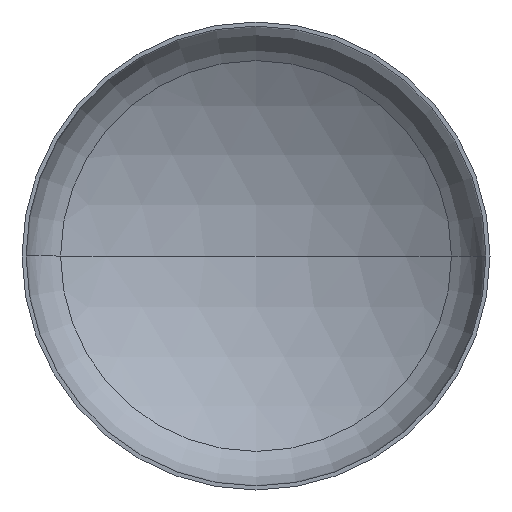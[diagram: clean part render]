
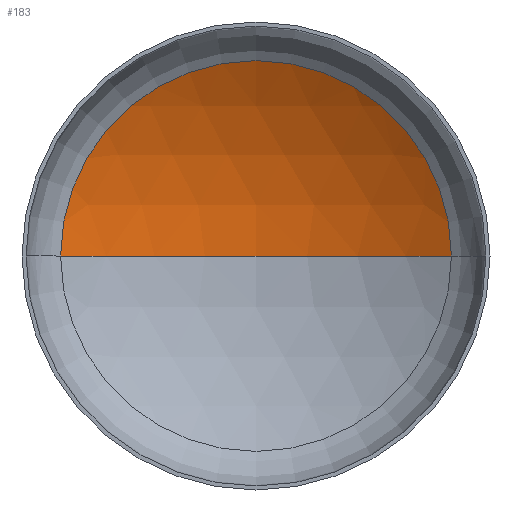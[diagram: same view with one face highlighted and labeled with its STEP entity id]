
A CAD part, front view. The second image highlights one B-rep face of the part: STEP entity #183.
In plain terms, the highlighted spherical face has radius 1760 mm.
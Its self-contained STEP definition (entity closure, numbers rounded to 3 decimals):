
#1 = DIRECTION ( 'NONE',  ( -1., 0., 0. ) ) ;
#5 = DIRECTION ( 'NONE',  ( 0., 0., -1. ) ) ;
#19 = DIRECTION ( 'NONE',  ( 1., 0., 0. ) ) ;
#20 = CARTESIAN_POINT ( 'NONE',  ( 0., -1151.329, 0. ) ) ;
#25 = VERTEX_POINT ( 'NONE', #258 ) ;
#28 = AXIS2_PLACEMENT_3D ( 'NONE', #197, #281, #367 ) ;
#29 = DIRECTION ( 'NONE',  ( 1., 0., 0. ) ) ;
#37 = AXIS2_PLACEMENT_3D ( 'NONE', #20, #250, #29 ) ;
#40 = DIRECTION ( 'NONE',  ( 0., -1., 0. ) ) ;
#42 = AXIS2_PLACEMENT_3D ( 'NONE', #90, #5, #1 ) ;
#43 = AXIS2_PLACEMENT_3D ( 'NONE', #78, #40, #19 ) ;
#49 = ORIENTED_EDGE ( 'NONE', *, *, #103, .T. ) ;
#51 = VERTEX_POINT ( 'NONE', #206 ) ;
#78 = CARTESIAN_POINT ( 'NONE',  ( 0., 350.037, 0. ) ) ;
#80 = ORIENTED_EDGE ( 'NONE', *, *, #105, .F. ) ;
#90 = CARTESIAN_POINT ( 'NONE',  ( 0., -1151.329, 0. ) ) ;
#93 = VERTEX_POINT ( 'NONE', #158 ) ;
#97 = EDGE_CURVE ( 'NONE', #51, #93, #202, .T. ) ;
#103 = EDGE_CURVE ( 'NONE', #25, #51, #326, .T. ) ;
#105 = EDGE_CURVE ( 'NONE', #25, #93, #187, .T. ) ;
#158 = CARTESIAN_POINT ( 'NONE',  ( -918.423, 350.037, 0. ) ) ;
#159 = EDGE_LOOP ( 'NONE', ( #80, #49, #343 ) ) ;
#183 = ADVANCED_FACE ( 'NONE', ( #378 ), #319, .F. ) ;
#187 = CIRCLE ( 'NONE', #37, 1760. ) ;
#197 = CARTESIAN_POINT ( 'NONE',  ( 0., -1151.329, 0. ) ) ;
#202 = CIRCLE ( 'NONE', #43, 918.423 ) ;
#206 = CARTESIAN_POINT ( 'NONE',  ( 918.423, 350.037, 0. ) ) ;
#250 = DIRECTION ( 'NONE',  ( 0., 0., 1. ) ) ;
#258 = CARTESIAN_POINT ( 'NONE',  ( 0., 608.671, 0. ) ) ;
#281 = DIRECTION ( 'NONE',  ( 0., 0., -1. ) ) ;
#319 = SPHERICAL_SURFACE ( 'NONE', #28, 1760. ) ;
#326 = CIRCLE ( 'NONE', #42, 1760. ) ;
#343 = ORIENTED_EDGE ( 'NONE', *, *, #97, .T. ) ;
#367 = DIRECTION ( 'NONE',  ( -1., 0., 0. ) ) ;
#378 = FACE_OUTER_BOUND ( 'NONE', #159, .T. ) ;
